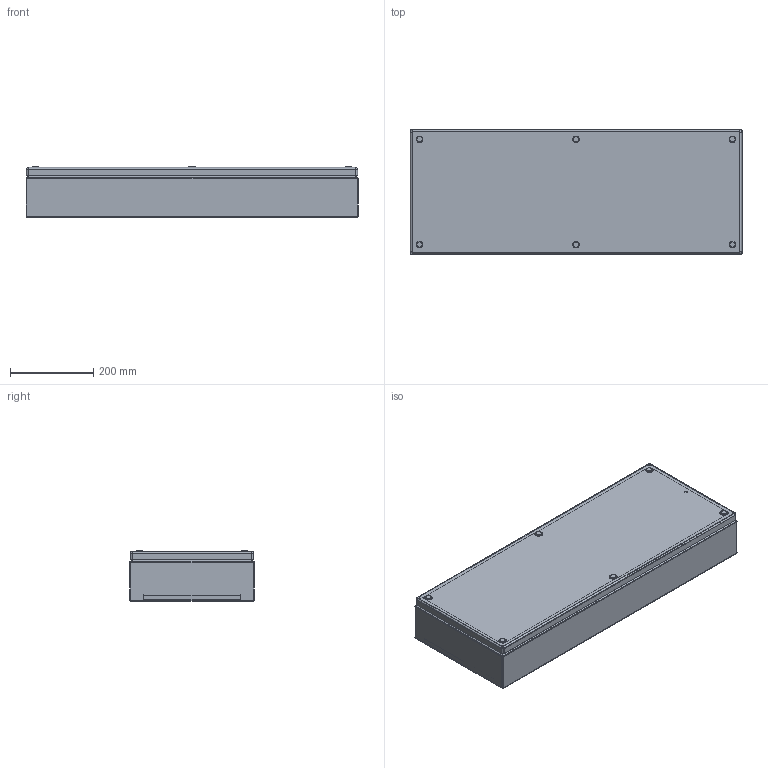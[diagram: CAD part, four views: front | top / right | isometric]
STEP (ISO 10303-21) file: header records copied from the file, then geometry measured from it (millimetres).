
FILE_DESCRIPTION (( 'STEP AP203' ), '1' );
FILE_NAME ('EG080312.A.STEP', '2023-09-01T14:43:06', ( '' ), ( '' ), 'SwSTEP 2.0', 'SolidWorks 2022', '' );
FILE_SCHEMA (( 'CONFIG_CONTROL_DESIGN' ));
Length unit declared in the file: millimetre
Products named in the file (3): AR_EGRAN.A_pannello_0800x0300; AR_EGRAN.A_involucro_0800x0300x120; EG080312.A
Assembly tree (2 placements, depth 2):
  EG080312.A
    AR_EGRAN.A_involucro_0800x0300x120
    AR_EGRAN.A_pannello_0800x0300
Bounding box: 800 x 300 x 121.5 mm (x, y, z)
Volume: 1075808 mm3; surface area: 1630625.6 mm2
Topology: 2 solids, 2 shells, 356 faces, 890 edges, 541 vertices
Faces by surface type: cylinder 181, plane 117, torus 34, sphere 16, bspline 8
Full cylindrical faces by diameter (mm): 4.2 x64, 5.2 x4, 5.5 x1, 6 x3, 8 x1, 10.2 x4, 14 x2, 16 x6
Entity records: 10657 total; most frequent: CARTESIAN_POINT 2112, DIRECTION 1792, ORIENTED_EDGE 1482, EDGE_CURVE 741, AXIS2_PLACEMENT_3D 731, EDGE_LOOP 624, VERTEX_POINT 511, FACE_OUTER_BOUND 459
